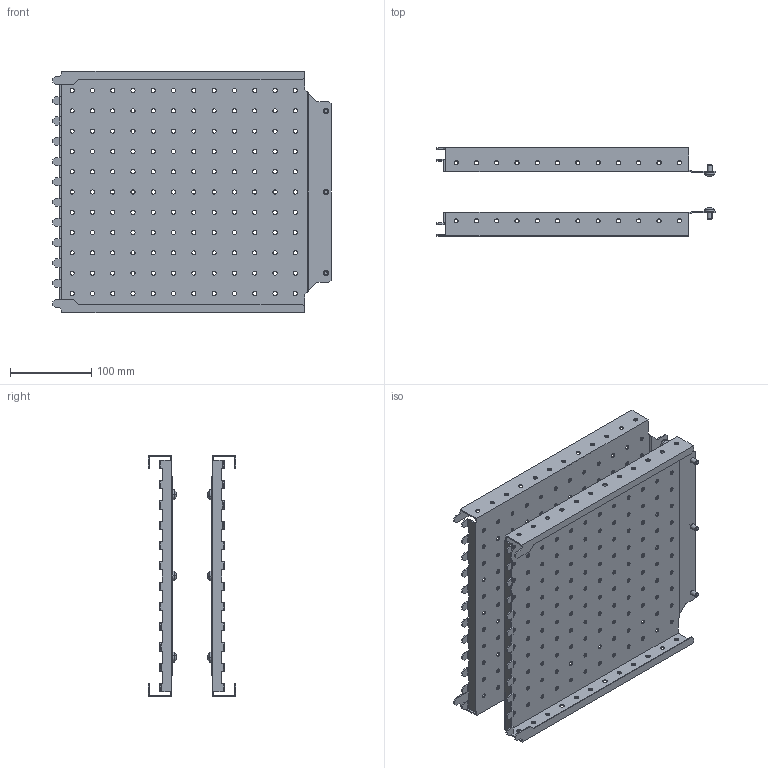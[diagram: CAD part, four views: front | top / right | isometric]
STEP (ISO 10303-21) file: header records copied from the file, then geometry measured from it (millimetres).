
FILE_DESCRIPTION (( 'STEP AP214' ), '1' );
FILE_NAME ('FO-00-MPSP-030-040 Ïàíåëü ìîíòàæíàÿ áîêîâàÿ ïåðôîðèðîâàííàÿ 300õ400ìì (2 øò.óïàê.).STEP', '2025-08-12T11:33:38', ( '' ), ( '' ), 'SwSTEP 2.0', 'SolidWorks 2023', '' );
FILE_SCHEMA (( 'AUTOMOTIVE_DESIGN' ));
Length unit declared in the file: millimetre
Products named in the file (2): Панель монтажная боковая перфорированная 300x400мм; FO-00-MPSP-030-040 Панель монтажная боковая перфорированная 300х400мм (2 шт.упак.)
Assembly tree (2 placements, depth 2):
  FO-00-MPSP-030-040 Панель монтажная боковая перфорированная 300х400мм (2 шт.упак.)
    Панель монтажная боковая перфорированная 300x400мм  x2
Bounding box: 342.62 x 108.18 x 297.5 mm (x, y, z)
Volume: 363159.9 mm3; surface area: 494425 mm2
Topology: 2 solids, 2 shells, 1242 faces, 3578 edges, 2352 vertices
Faces by surface type: cylinder 766, plane 432, torus 12, cone 12, sphere 12, bspline 8
Entity records: 21574 total; most frequent: CARTESIAN_POINT 4016, DIRECTION 3711, ORIENTED_EDGE 3578, EDGE_CURVE 1789, AXIS2_PLACEMENT_3D 1367, VERTEX_POINT 1176, VECTOR 977, LINE 977
